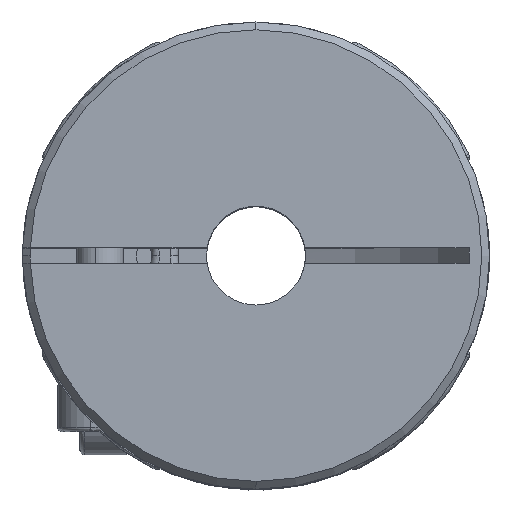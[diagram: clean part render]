
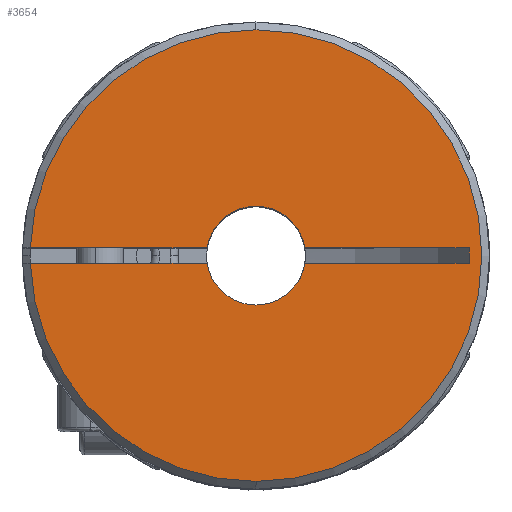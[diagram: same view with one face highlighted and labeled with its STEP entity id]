
A CAD part, top view. The second image highlights one B-rep face of the part: STEP entity #3654.
In plain terms, the highlighted planar face has unit normal (0, 0, 1) as drawn and (0, 0, -1) by its records, which use the part's own axes.
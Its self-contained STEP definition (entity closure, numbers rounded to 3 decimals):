
#33 = CIRCLE ( 'NONE', #824, 14.5 ) ;
#81 = VERTEX_POINT ( 'NONE', #5507 ) ;
#107 = CARTESIAN_POINT ( 'NONE',  ( 3.175, 0., 0. ) ) ;
#187 = EDGE_CURVE ( 'NONE', #5603, #5635, #495, .T. ) ;
#238 = CARTESIAN_POINT ( 'NONE',  ( -0.5, -3.135, 0. ) ) ;
#255 = VECTOR ( 'NONE', #4282, 1000. ) ;
#267 = CARTESIAN_POINT ( 'NONE',  ( 0.5, 0., 0. ) ) ;
#313 = DIRECTION ( 'NONE',  ( 1., 0., 0. ) ) ;
#383 = EDGE_LOOP ( 'NONE', ( #4949, #5121, #1809, #3774, #1946, #5180, #5670, #3224, #440, #596, #4641, #1011 ) ) ;
#388 = AXIS2_PLACEMENT_3D ( 'NONE', #3114, #1732, #4663 ) ;
#440 = ORIENTED_EDGE ( 'NONE', *, *, #3002, .T. ) ;
#495 = CIRCLE ( 'NONE', #1276, 3.175 ) ;
#507 = VERTEX_POINT ( 'NONE', #3261 ) ;
#508 = DIRECTION ( 'NONE',  ( 0., 0., -1. ) ) ;
#509 = CARTESIAN_POINT ( 'NONE',  ( -0.5, 0., 0. ) ) ;
#596 = ORIENTED_EDGE ( 'NONE', *, *, #3498, .F. ) ;
#629 = VECTOR ( 'NONE', #3851, 1000. ) ;
#736 = AXIS2_PLACEMENT_3D ( 'NONE', #1976, #3532, #5872 ) ;
#824 = AXIS2_PLACEMENT_3D ( 'NONE', #3648, #4594, #1327 ) ;
#845 = CARTESIAN_POINT ( 'NONE',  ( -0.5, 13.678, 0. ) ) ;
#884 = PLANE ( 'NONE',  #388 ) ;
#908 = CARTESIAN_POINT ( 'NONE',  ( 14.5, 0., 0. ) ) ;
#960 = CARTESIAN_POINT ( 'NONE',  ( -0.5, 13.678, 0. ) ) ;
#1011 = ORIENTED_EDGE ( 'NONE', *, *, #1558, .T. ) ;
#1126 = LINE ( 'NONE', #4881, #1846 ) ;
#1276 = AXIS2_PLACEMENT_3D ( 'NONE', #3419, #5379, #5264 ) ;
#1304 = VECTOR ( 'NONE', #2525, 1000. ) ;
#1327 = DIRECTION ( 'NONE',  ( 1., 0., 0. ) ) ;
#1534 = CARTESIAN_POINT ( 'NONE',  ( 0., 0., 0. ) ) ;
#1558 = EDGE_CURVE ( 'NONE', #507, #2018, #5553, .T. ) ;
#1608 = DIRECTION ( 'NONE',  ( 0., 1., 0. ) ) ;
#1732 = DIRECTION ( 'NONE',  ( 0., 0., 1. ) ) ;
#1809 = ORIENTED_EDGE ( 'NONE', *, *, #5002, .T. ) ;
#1846 = VECTOR ( 'NONE', #1608, 1000. ) ;
#1874 = CARTESIAN_POINT ( 'NONE',  ( 0., 0., 0. ) ) ;
#1908 = DIRECTION ( 'NONE',  ( 1., 0., 0. ) ) ;
#1946 = ORIENTED_EDGE ( 'NONE', *, *, #5331, .T. ) ;
#1976 = CARTESIAN_POINT ( 'NONE',  ( 0., 0., 0. ) ) ;
#1993 = CIRCLE ( 'NONE', #5446, 3.175 ) ;
#2018 = VERTEX_POINT ( 'NONE', #238 ) ;
#2169 = AXIS2_PLACEMENT_3D ( 'NONE', #5731, #5936, #313 ) ;
#2219 = CARTESIAN_POINT ( 'NONE',  ( 0.5, 3.135, 0. ) ) ;
#2460 = VERTEX_POINT ( 'NONE', #4133 ) ;
#2474 = CARTESIAN_POINT ( 'NONE',  ( 0., 0., 0. ) ) ;
#2486 = CIRCLE ( 'NONE', #736, 14.5 ) ;
#2525 = DIRECTION ( 'NONE',  ( 0., 1., 0. ) ) ;
#2624 = VERTEX_POINT ( 'NONE', #908 ) ;
#2853 = CARTESIAN_POINT ( 'NONE',  ( 0.5, -3.135, 0. ) ) ;
#2893 = CARTESIAN_POINT ( 'NONE',  ( -0.5, 3.135, 0. ) ) ;
#2895 = AXIS2_PLACEMENT_3D ( 'NONE', #1534, #2943, #3864 ) ;
#2943 = DIRECTION ( 'NONE',  ( 0., 0., 1. ) ) ;
#3002 = EDGE_CURVE ( 'NONE', #6041, #4280, #5150, .T. ) ;
#3035 = AXIS2_PLACEMENT_3D ( 'NONE', #1874, #508, #1908 ) ;
#3114 = CARTESIAN_POINT ( 'NONE',  ( 0., 0., 0. ) ) ;
#3224 = ORIENTED_EDGE ( 'NONE', *, *, #3931, .T. ) ;
#3261 = CARTESIAN_POINT ( 'NONE',  ( -3.175, 0., 0. ) ) ;
#3321 = LINE ( 'NONE', #267, #1304 ) ;
#3417 = CARTESIAN_POINT ( 'NONE',  ( -0.5, 0., 0. ) ) ;
#3419 = CARTESIAN_POINT ( 'NONE',  ( 0., 0., 0. ) ) ;
#3498 = EDGE_CURVE ( 'NONE', #5605, #4280, #4003, .T. ) ;
#3532 = DIRECTION ( 'NONE',  ( 0., 0., -1. ) ) ;
#3648 = CARTESIAN_POINT ( 'NONE',  ( 0., 0., 0. ) ) ;
#3654 = ADVANCED_FACE ( 'NONE', ( #5924 ), #884, .F. ) ;
#3772 = EDGE_CURVE ( 'NONE', #2624, #2460, #5795, .T. ) ;
#3774 = ORIENTED_EDGE ( 'NONE', *, *, #3772, .T. ) ;
#3851 = DIRECTION ( 'NONE',  ( 0., 1., 0. ) ) ;
#3864 = DIRECTION ( 'NONE',  ( 1., 0., 0. ) ) ;
#3931 = EDGE_CURVE ( 'NONE', #5091, #6041, #1126, .T. ) ;
#4003 = LINE ( 'NONE', #3417, #5006 ) ;
#4133 = CARTESIAN_POINT ( 'NONE',  ( 0.5, -14.491, 0. ) ) ;
#4222 = VERTEX_POINT ( 'NONE', #4493 ) ;
#4280 = VERTEX_POINT ( 'NONE', #845 ) ;
#4282 = DIRECTION ( 'NONE',  ( -1., 0., 0. ) ) ;
#4324 = LINE ( 'NONE', #509, #629 ) ;
#4345 = CIRCLE ( 'NONE', #2169, 3.175 ) ;
#4363 = DIRECTION ( 'NONE',  ( 1., 0., 0. ) ) ;
#4493 = CARTESIAN_POINT ( 'NONE',  ( -14.5, 0., 0. ) ) ;
#4594 = DIRECTION ( 'NONE',  ( 0., 0., -1. ) ) ;
#4641 = ORIENTED_EDGE ( 'NONE', *, *, #5871, .T. ) ;
#4663 = DIRECTION ( 'NONE',  ( 1., 0., 0. ) ) ;
#4735 = DIRECTION ( 'NONE',  ( 0., 0., 1. ) ) ;
#4881 = CARTESIAN_POINT ( 'NONE',  ( 0.5, 0., 0. ) ) ;
#4883 = EDGE_CURVE ( 'NONE', #5635, #5091, #1993, .T. ) ;
#4949 = ORIENTED_EDGE ( 'NONE', *, *, #5224, .F. ) ;
#5002 = EDGE_CURVE ( 'NONE', #4222, #2624, #2486, .T. ) ;
#5006 = VECTOR ( 'NONE', #5844, 1000. ) ;
#5091 = VERTEX_POINT ( 'NONE', #2219 ) ;
#5121 = ORIENTED_EDGE ( 'NONE', *, *, #5565, .T. ) ;
#5150 = LINE ( 'NONE', #960, #255 ) ;
#5180 = ORIENTED_EDGE ( 'NONE', *, *, #187, .T. ) ;
#5224 = EDGE_CURVE ( 'NONE', #81, #2018, #4324, .T. ) ;
#5264 = DIRECTION ( 'NONE',  ( 1., 0., 0. ) ) ;
#5330 = CARTESIAN_POINT ( 'NONE',  ( 0.5, 13.678, 0. ) ) ;
#5331 = EDGE_CURVE ( 'NONE', #2460, #5603, #3321, .T. ) ;
#5379 = DIRECTION ( 'NONE',  ( 0., 0., 1. ) ) ;
#5446 = AXIS2_PLACEMENT_3D ( 'NONE', #2474, #4735, #4363 ) ;
#5507 = CARTESIAN_POINT ( 'NONE',  ( -0.5, -14.491, 0. ) ) ;
#5553 = CIRCLE ( 'NONE', #2895, 3.175 ) ;
#5565 = EDGE_CURVE ( 'NONE', #81, #4222, #33, .T. ) ;
#5603 = VERTEX_POINT ( 'NONE', #2853 ) ;
#5605 = VERTEX_POINT ( 'NONE', #2893 ) ;
#5635 = VERTEX_POINT ( 'NONE', #107 ) ;
#5670 = ORIENTED_EDGE ( 'NONE', *, *, #4883, .T. ) ;
#5731 = CARTESIAN_POINT ( 'NONE',  ( 0., 0., 0. ) ) ;
#5795 = CIRCLE ( 'NONE', #3035, 14.5 ) ;
#5844 = DIRECTION ( 'NONE',  ( 0., 1., 0. ) ) ;
#5871 = EDGE_CURVE ( 'NONE', #5605, #507, #4345, .T. ) ;
#5872 = DIRECTION ( 'NONE',  ( 1., 0., 0. ) ) ;
#5924 = FACE_OUTER_BOUND ( 'NONE', #383, .T. ) ;
#5936 = DIRECTION ( 'NONE',  ( 0., 0., 1. ) ) ;
#6041 = VERTEX_POINT ( 'NONE', #5330 ) ;
